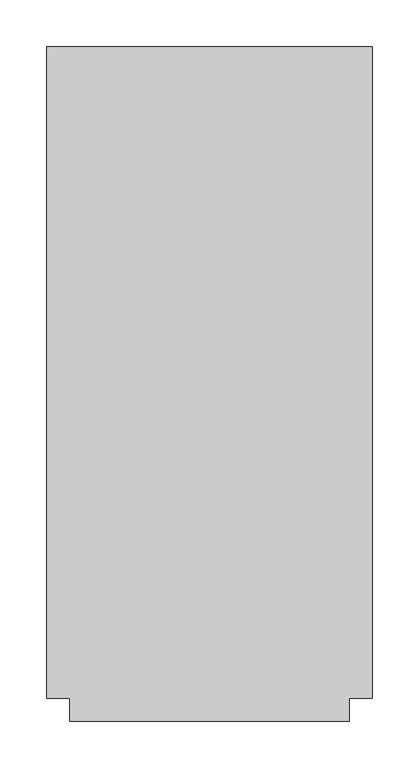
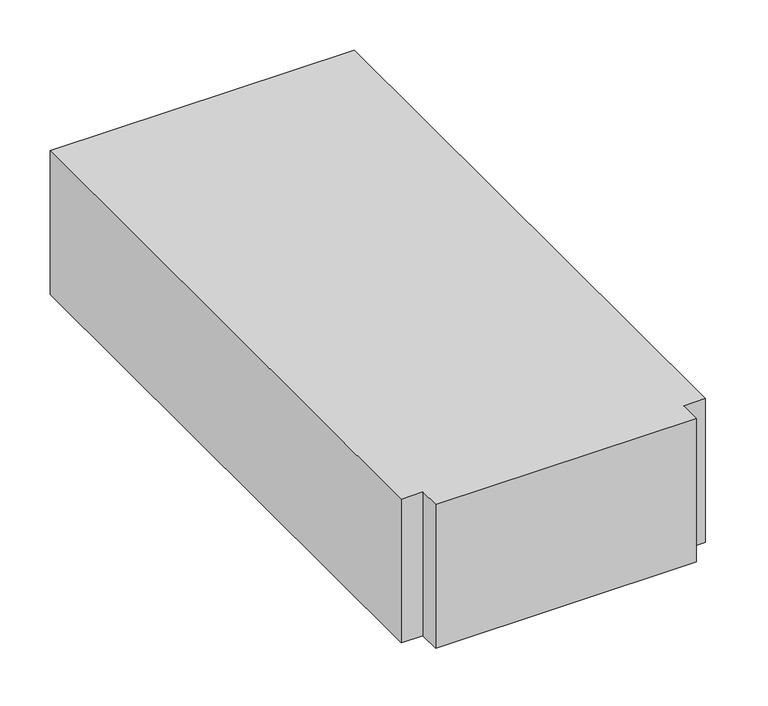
"""IFC4 building model written with IfcOpenShell, lengths in millimetres: duct fitting geometry, M_Te rectangular : Estándar."""

from ifc_helpers import new_model, si_unit, frame, origin, place, context, project, spatial, polyline, outline, extrude, source, transform, mapped, element, save


def duct_fitting_aa50777b(model_context):
    return source(origin(), model_context, "Body", "SweptSolid", [
        extrude(outline(polyline([(-175.0, -350.0), (-175.0, 350.0), (175.0, 350.0), (175.0, -350.0), (150.0, -350.0), (150.0, -375.0), (-150.0, -375.0), (-150.0, -350.0), (-175.0, -350.0)])), frame((0.0, 0.0, -87.5), z_axis=(0.0, 0.0, 1.0), x_axis=(1.0, 0.0, 0.0)), (0.0, 0.0, 1.0), 175.0),
    ])


if __name__ == "__main__":
    model = new_model("IFC4")
    model_context = context("Model", 3, world=origin())
    ifc_project = project(units=[si_unit("LENGTHUNIT", "METRE", prefix="MILLI")], contexts=[model_context])
    site = spatial("IfcSite", under=ifc_project)
    building = spatial("IfcBuilding", under=site)
    placement = place(None, origin())
    duct_fitting_shape = duct_fitting_aa50777b(model_context)
    element("IfcDuctFitting", 1, ObjectType="M_Te rectangular : Estándar", at=placement, inside=building, context=model_context, shape_type="MappedRepresentation", body=[
        mapped(duct_fitting_shape, transform((0.0, 0.0, 0.0), x_axis=(1.0, 0.0, 0.0), y_axis=(0.0, 1.0, 0.0), z_axis=(0.0, 0.0, 1.0))),
    ])
    save(model, "model.ifc")
